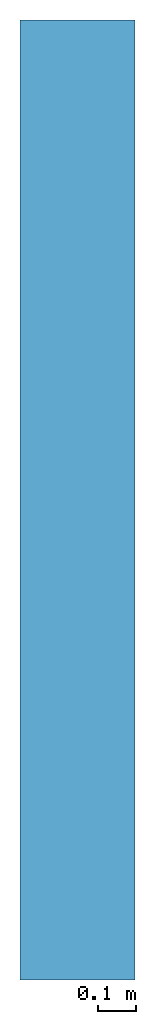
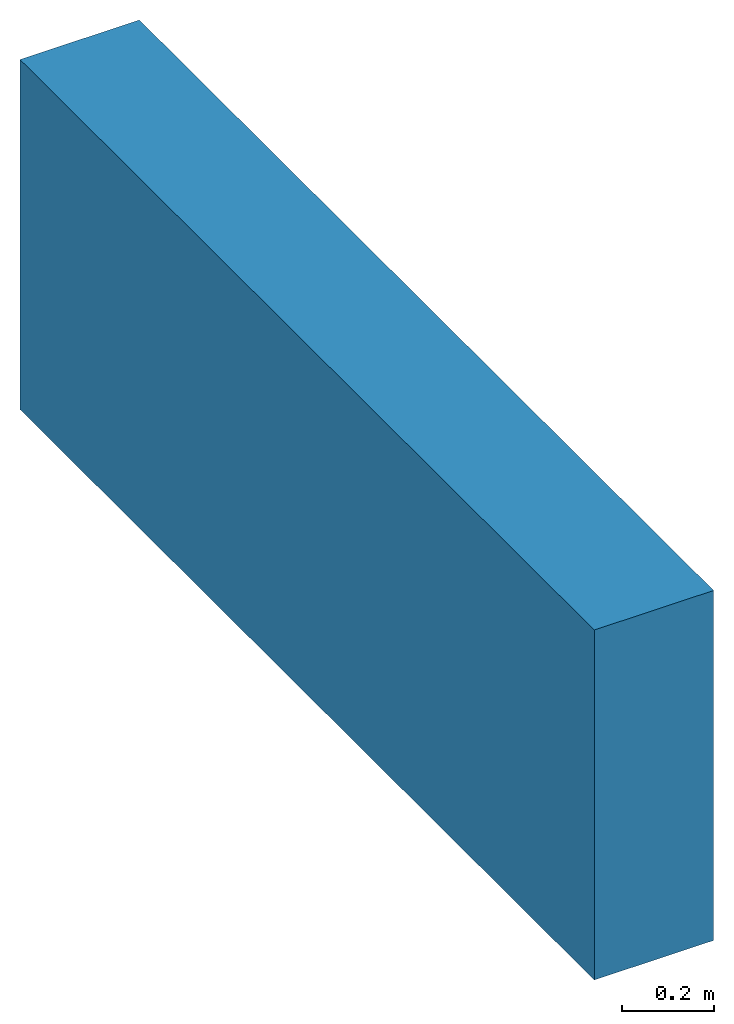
# One storey: 1 wall.
"""IFC2X3 building model written with IfcOpenShell, lengths in millimetres."""

import ifcopenshell
import ifcopenshell.guid

model = None  # the IFC model being written
_history = None  # IfcOwnerHistory: only IFC2X3 demands one
_inside = {}  # id of a spatial element -> (the spatial element, [elements in it])
_under = {}  # id of a project, library or spatial element -> (it, [spatial elements below it])
_declared = {}  # id of a project -> (the project, [libraries it declares])
_typed = {}  # id of a type object -> (the type object, [elements of that type])
_made_of = {}  # id of a material, layer set ... -> (it, [elements and type objects made of it])


def new_model(schema):
    """Start an empty IFC model of exactly this schema.

    Asked for "IFC4X3", IfcOpenShell would pick the latest addendum, in which some entities
    have other attributes; the version numbers below select the first issue.
    IFC2X3 requires an IfcOwnerHistory on every rooted entity: one is made here for all.
    """
    global model, _history
    if schema == "IFC4X3":
        model = ifcopenshell.file(schema_version=(4, 3, 0, 0))
    else:
        model = ifcopenshell.file(schema=schema)
    _inside.clear()
    _under.clear()
    _declared.clear()
    _typed.clear()
    _made_of.clear()
    _history = None
    if model.schema == "IFC2X3":
        org = make("IfcOrganization", Name="unknown")
        user = make(
            "IfcPersonAndOrganization",
            ThePerson=make("IfcPerson", FamilyName="unknown"),
            TheOrganization=org,
        )
        app = make(
            "IfcApplication",
            ApplicationDeveloper=org,
            Version="unknown",
            ApplicationFullName="unknown",
            ApplicationIdentifier="unknown",
        )
        _history = make(
            "IfcOwnerHistory",
            OwningUser=user,
            OwningApplication=app,
            ChangeAction="ADDED",
            CreationDate=0,
        )
    return model


def make(cls, **values):
    """One entity of the class cls with the attributes given. An attribute that is None is left unset."""
    return model.create_entity(
        cls, **{name: value for name, value in values.items() if value is not None}
    )


def entity(cls, *values):
    """Any entity or typed value of the class cls, its attributes in the order of the schema. None: left unset."""
    e = model.create_entity(cls)
    for i, value in enumerate(values):
        if value is not None:
            e[i] = value
    return e


def rooted(cls, **values):
    """An entity with a GlobalId (a new one), such as an element, a storey or a relation."""
    return make(cls, GlobalId=ifcopenshell.guid.new(), OwnerHistory=_history, **values)


def si_unit(unit_type, name, prefix=None):
    """IfcSIUnit, for example si_unit("LENGTHUNIT", "METRE", prefix="MILLI")."""
    return make("IfcSIUnit", UnitType=unit_type, Prefix=prefix, Name=name)


def converted_unit(unit_type, name, factor, base, dimensions=None, offset=None):
    """IfcConversionBasedUnit, such as the inch: factor (a typed value) times the base unit."""
    return make(
        "IfcConversionBasedUnit"
        if offset is None
        else "IfcConversionBasedUnitWithOffset",
        ConversionOffset=offset,
        Dimensions=None
        if dimensions is None
        else entity("IfcDimensionalExponents", *dimensions),
        UnitType=unit_type,
        Name=name,
        ConversionFactor=make(
            "IfcMeasureWithUnit", ValueComponent=factor, UnitComponent=base
        ),
    )


def derived_unit(unit_type, elements):
    """IfcDerivedUnit: a product of units, each with its exponent."""
    return make(
        "IfcDerivedUnit",
        Elements=[
            make("IfcDerivedUnitElement", Unit=unit, Exponent=power)
            for unit, power in elements
        ],
        UnitType=unit_type,
    )


def assignment(units):
    """IfcUnitAssignment: the units of a project."""
    return None if units is None else make("IfcUnitAssignment", Units=units)


def point(xyz):
    """IfcCartesianPoint."""
    return None if xyz is None else make("IfcCartesianPoint", Coordinates=xyz)


def direction(xyz):
    """IfcDirection."""
    return None if xyz is None else make("IfcDirection", DirectionRatios=xyz)


def frame(location, z_axis=None, x_axis=None):
    """IfcAxis2Placement3D, a coordinate frame: its origin and axes. An axis left out is left unset."""
    return make(
        "IfcAxis2Placement3D",
        Location=point(location),
        Axis=direction(z_axis),
        RefDirection=direction(x_axis),
    )


def origin_with_axes():
    """The frame at (0, 0, 0) with the z axis (0, 0, 1) and the x axis (1, 0, 0) written out."""
    return frame((0.0, 0.0, 0.0), z_axis=(0.0, 0.0, 1.0), x_axis=(1.0, 0.0, 0.0))


def place(relative_to, where):
    """IfcLocalPlacement: puts the frame where relative to a parent placement (None: the world)."""
    return make(
        "IfcLocalPlacement", PlacementRelTo=relative_to, RelativePlacement=where
    )


def context(
    kind, dimensions, precision=None, world=None, true_north=None, identifier=None
):
    """IfcGeometricRepresentationContext, for example the 3D "Model" context."""
    return make(
        "IfcGeometricRepresentationContext",
        ContextIdentifier=identifier,
        ContextType=kind,
        CoordinateSpaceDimension=dimensions,
        Precision=precision,
        WorldCoordinateSystem=world,
        TrueNorth=true_north,
    )


def subcontext(parent, identifier, kind, view, scale=None):
    """IfcGeometricRepresentationSubContext, for example "Body" below "Model"."""
    return make(
        "IfcGeometricRepresentationSubContext",
        ContextIdentifier=identifier,
        ContextType=kind,
        ParentContext=parent,
        TargetScale=scale,
        TargetView=view,
    )


def project(units=None, contexts=None):
    """IfcProject with its units and contexts."""
    return rooted(
        "IfcProject",
        Name="project",
        RepresentationContexts=contexts,
        UnitsInContext=assignment(units),
    )


def spatial(cls, under=None, at=None, **own):
    """A site, building, storey or space (cls), placed at a placement, below another one or the project."""
    s = rooted(cls, ObjectPlacement=at, **own)
    if under is not None:
        _under.setdefault(under.id(), (under, []))[1].append(s)
    return s


def faces_of(points, faces, orient=None, outer=None):
    """IfcFace entities. A face is a list of loops; a loop is a list of indices into points, from 0.

    orient and outer hold one flag for each loop. By default every Orientation is true, the
    first loop of a face is its IfcFaceOuterBound and the others are IfcFaceBound.
    """
    made = []
    for i, loops in enumerate(faces):
        bounds = []
        for j, loop in enumerate(loops):
            is_outer = j == 0 if outer is None else outer[i][j]
            bounds.append(
                make(
                    "IfcFaceOuterBound" if is_outer else "IfcFaceBound",
                    Bound=make("IfcPolyLoop", Polygon=[points[k] for k in loop]),
                    Orientation=True if orient is None else orient[i][j],
                )
            )
        made.append(make("IfcFace", Bounds=bounds))
    return made


def faceted_brep(points, faces, orient=None, outer=None, voids=None):
    """IfcFacetedBrep: a solid bounded by flat faces; with voids (closed shells), ...WithVoids."""
    shared = [point(p) for p in points]
    hull = make("IfcClosedShell", CfsFaces=faces_of(shared, faces, orient, outer))
    if voids is None:
        return make("IfcFacetedBrep", Outer=hull)
    return make(
        "IfcFacetedBrepWithVoids",
        Outer=hull,
        Voids=[
            make(cls, CfsFaces=faces_of(shared, fs, o, b)) for cls, fs, o, b in voids
        ],
    )


def shape(context_of_items, identifier, shape_type, items):
    """IfcShapeRepresentation: the items that make up one representation, for example the "Body"."""
    return make(
        "IfcShapeRepresentation",
        ContextOfItems=context_of_items,
        RepresentationIdentifier=identifier,
        RepresentationType=shape_type,
        Items=items,
    )


def made_of(thing, what):
    """Note that an element or type object is made of a material, layer set ...; save() writes the relation."""
    if what is not None:
        _made_of.setdefault(what.id(), (what, []))[1].append(thing)
    return thing


def type_object(cls, material=None, **own):
    """A type object (cls), such as IfcWallType, which elements share."""
    return made_of(rooted(cls, **own), material)


def element(
    cls,
    number,
    at=None,
    inside=None,
    cuts=None,
    type_object=None,
    material=None,
    context=None,
    identifier="Body",
    shape_type=None,
    held_by="IfcProductDefinitionShape",
    body=None,
    shapes=None,
    **own,
):
    """One element of the class cls, such as IfcWall. Its Tag is "e" and its number.

    at: its placement. inside: the storey or other place that contains it. cuts: it is an
    opening in that element (IfcRelVoidsElement). A single representation is given by context,
    identifier, shape_type and body (its items); several are given by shapes. held_by: the class
    of the entity that holds the representations. save() writes the other relations.
    """
    e = rooted(cls, Tag="e%d" % number, ObjectPlacement=at, **own)
    if body is not None:
        shapes = [shape(context, identifier, shape_type, body)]
    if shapes is not None:
        e.Representation = make(held_by, Representations=shapes)
    if inside is not None:
        _inside.setdefault(inside.id(), (inside, []))[1].append(e)
    if cuts is not None:
        rooted(
            "IfcRelVoidsElement", RelatingBuildingElement=cuts, RelatedOpeningElement=e
        )
    if type_object is not None:
        _typed.setdefault(type_object.id(), (type_object, []))[1].append(e)
    return made_of(e, material)


def aggregate(whole, parts):
    """IfcRelAggregates: a whole, such as a stair, and the parts it consists of."""
    return rooted("IfcRelAggregates", RelatingObject=whole, RelatedObjects=parts)


def save(model, path):
    """Write the relations noted so far, then the file.

    IfcRelAggregates (storeys below a building ...), IfcRelContainedInSpatialStructure (elements
    in a storey), IfcRelDefinesByType, IfcRelAssociatesMaterial and IfcRelDeclares: one each for
    every whole, place, type object, material and project.
    """
    for whole, parts in _under.values():
        aggregate(whole, parts)
    for where, things in _inside.values():
        rooted(
            "IfcRelContainedInSpatialStructure",
            RelatedElements=things,
            RelatingStructure=where,
        )
    for kind, things in _typed.values():
        rooted("IfcRelDefinesByType", RelatedObjects=things, RelatingType=kind)
    for what, things in _made_of.values():
        rooted("IfcRelAssociatesMaterial", RelatedObjects=things, RelatingMaterial=what)
    for by, libraries in _declared.values():
        rooted("IfcRelDeclares", RelatingContext=by, RelatedDefinitions=libraries)
    model.write(path)


model = new_model("IFC2X3")

# Units and contexts
model_context = context("Model", 3, precision=0.01, world=frame((0.0, 4.29681676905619e-09, 0.0)), true_north=direction((4.01073788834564e-13, 1.0)))
plan_context = context("Plan", 3, precision=0.01, world=frame((0.0, 4.29681676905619e-09, 0.0)), true_north=direction((4.01073788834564e-13, 1.0)))
body_context = subcontext(model_context, "Body", "Model", "MODEL_VIEW")
ifc_project = project(units=[converted_unit("PLANEANGLEUNIT", "DEGREE", entity("IfcPositiveLengthMeasure", 0.0174532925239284), si_unit("PLANEANGLEUNIT", "RADIAN"), dimensions=[0, 0, 0, 0, 0, 0, 0]), si_unit("AREAUNIT", "SQUARE_METRE"), si_unit("LENGTHUNIT", "METRE", prefix="MILLI"), si_unit("MASSUNIT", "GRAM", prefix="KILO"), si_unit("POWERUNIT", "WATT"), si_unit("PRESSUREUNIT", "PASCAL"), si_unit("FORCEUNIT", "NEWTON", prefix="KILO"), si_unit("ELECTRICVOLTAGEUNIT", "VOLT"), si_unit("ELECTRICCURRENTUNIT", "AMPERE"), si_unit("THERMODYNAMICTEMPERATUREUNIT", "DEGREE_CELSIUS"), si_unit("TIMEUNIT", "SECOND"), si_unit("VOLUMEUNIT", "CUBIC_METRE"), derived_unit("LINEARVELOCITYUNIT", [(si_unit("LENGTHUNIT", "METRE"), 1), (si_unit("TIMEUNIT", "SECOND"), -1)]), derived_unit("VOLUMETRICFLOWRATEUNIT", [(si_unit("VOLUMEUNIT", "CUBIC_METRE"), 1), (si_unit("TIMEUNIT", "SECOND"), -1)]), derived_unit("THERMALTRANSMITTANCEUNIT", [(si_unit("POWERUNIT", "WATT"), 1), (si_unit("THERMODYNAMICTEMPERATUREUNIT", "KELVIN"), -1), (si_unit("AREAUNIT", "SQUARE_METRE"), -1)]), derived_unit("SOUNDPRESSUREUNIT", [(si_unit("PRESSUREUNIT", "PASCAL"), 1)])], contexts=[model_context, plan_context])

# Site, building, storey
site_placement = place(None, frame((0.0, -4.29681676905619e-09, 0.0), z_axis=(0.0, 0.0, 1.0), x_axis=(1.0, 0.0, 0.0)))
site = spatial("IfcSite", under=ifc_project, at=site_placement, Name="Gardermoen", CompositionType="ELEMENT")
building_placement = place(site_placement, frame((0.0, 4.29681676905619e-09, 0.0), z_axis=(0.0, 0.0, 1.0), x_axis=(1.0, 0.0, 0.0)))
building = spatial("IfcBuilding", under=site, at=building_placement, Name="TS", CompositionType="ELEMENT")
storey_placement = place(building_placement, origin_with_axes())
storey = spatial("IfcBuildingStorey", under=building, at=storey_placement, Name="D", CompositionType="ELEMENT", Elevation=0.0)

# Wall
wall_type = type_object("IfcWallType", Name="1450*300", PredefinedType="NOTDEFINED")
wall_placement = place(storey_placement, frame((536050.009877, 448199.994373, 210105.0), z_axis=(0.0, 0.0, 1.0), x_axis=(0.0, 1.0, 0.0)))
element("IfcWall", 1, at=wall_placement, inside=storey, type_object=wall_type, Name="PLASSTØPTVEGG", ObjectType="1450*300", context=body_context, shape_type="Brep", body=[
    faceted_brep([(0.0, 150.0, -205.0), (2499.99716199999, 150.0, -205.0), (2499.99716199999, 150.0, 725.0), (0.0, 150.0, 725.0), (2499.99716199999, -150.0, 725.0), (0.0, -150.0, 725.0), (2499.99716199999, -150.0, -205.0), (0.0, -150.0, -205.0)], [[[0, 1, 2, 3]], [[2, 4, 5, 3]], [[6, 7, 5, 4]], [[1, 6, 4, 2]], [[7, 0, 3, 5]], [[7, 6, 1, 0]]], orient=[[False], [False], [False], [False], [False], [False]]),
])

save(model, "model.ifc")
